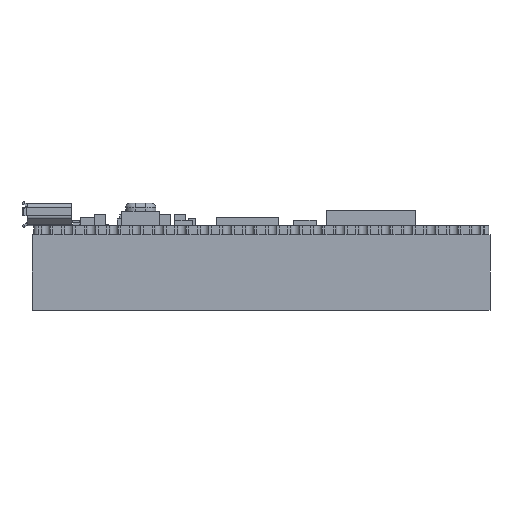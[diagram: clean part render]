
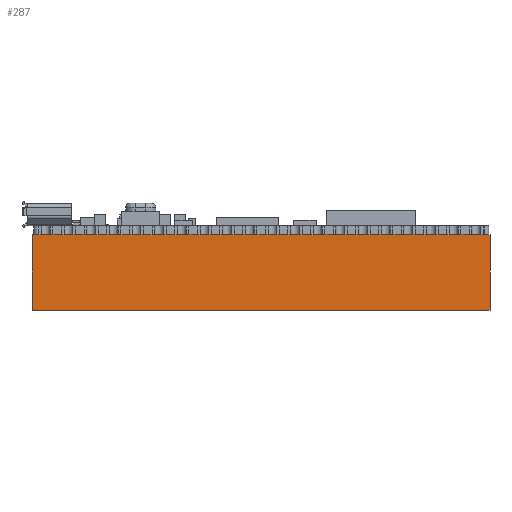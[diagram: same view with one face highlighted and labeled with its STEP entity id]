
A CAD part, left-side view. The second image highlights one B-rep face of the part: STEP entity #287.
In plain terms, the highlighted planar face has unit normal (-1, 0, 0).
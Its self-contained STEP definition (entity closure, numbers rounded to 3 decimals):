
#262 = VERTEX_POINT('',#263);
#263 = CARTESIAN_POINT('',(-10.14,25.65,-8.5));
#269 = EDGE_CURVE('',#270,#262,#272,.T.);
#270 = VERTEX_POINT('',#271);
#271 = CARTESIAN_POINT('',(-10.14,25.65,0.));
#272 = LINE('',#273,#274);
#273 = CARTESIAN_POINT('',(-10.14,25.65,0.));
#274 = VECTOR('',#275,1.);
#275 = DIRECTION('',(-0.,-0.,-1.));
#287 = ADVANCED_FACE('',(#288),#313,.T.);
#288 = FACE_BOUND('',#289,.T.);
#289 = EDGE_LOOP('',(#290,#291,#299,#307));
#290 = ORIENTED_EDGE('',*,*,#269,.T.);
#291 = ORIENTED_EDGE('',*,*,#292,.T.);
#292 = EDGE_CURVE('',#262,#293,#295,.T.);
#293 = VERTEX_POINT('',#294);
#294 = CARTESIAN_POINT('',(-10.14,-25.65,-8.5));
#295 = LINE('',#296,#297);
#296 = CARTESIAN_POINT('',(-10.14,25.65,-8.5));
#297 = VECTOR('',#298,1.);
#298 = DIRECTION('',(0.,-1.,0.));
#299 = ORIENTED_EDGE('',*,*,#300,.F.);
#300 = EDGE_CURVE('',#301,#293,#303,.T.);
#301 = VERTEX_POINT('',#302);
#302 = CARTESIAN_POINT('',(-10.14,-25.65,0.));
#303 = LINE('',#304,#305);
#304 = CARTESIAN_POINT('',(-10.14,-25.65,0.));
#305 = VECTOR('',#306,1.);
#306 = DIRECTION('',(-0.,-0.,-1.));
#307 = ORIENTED_EDGE('',*,*,#308,.F.);
#308 = EDGE_CURVE('',#270,#301,#309,.T.);
#309 = LINE('',#310,#311);
#310 = CARTESIAN_POINT('',(-10.14,25.65,0.));
#311 = VECTOR('',#312,1.);
#312 = DIRECTION('',(0.,-1.,0.));
#313 = PLANE('',#314);
#314 = AXIS2_PLACEMENT_3D('',#315,#316,#317);
#315 = CARTESIAN_POINT('',(-10.14,25.65,0.));
#316 = DIRECTION('',(-1.,0.,0.));
#317 = DIRECTION('',(0.,-1.,0.));
